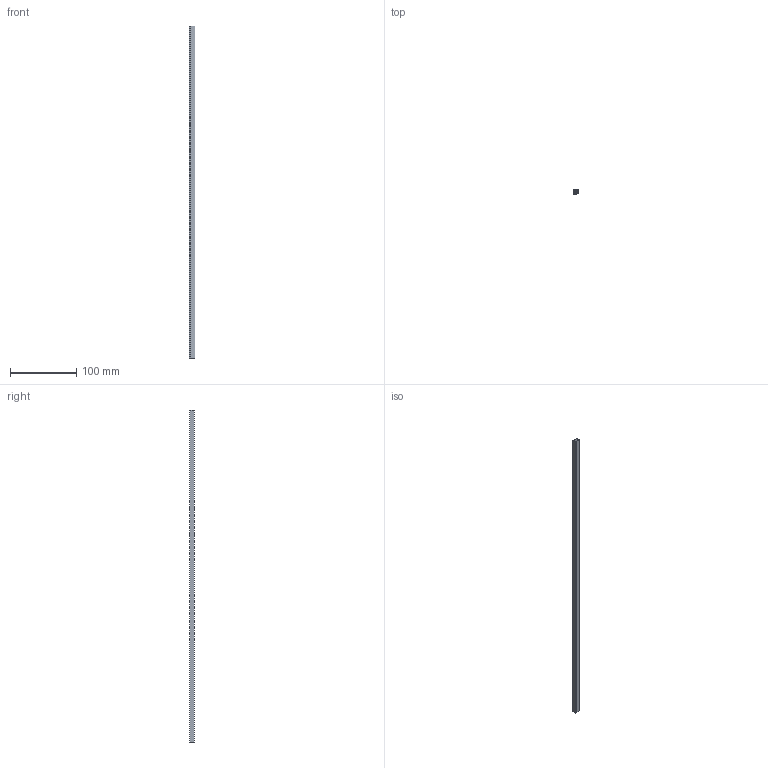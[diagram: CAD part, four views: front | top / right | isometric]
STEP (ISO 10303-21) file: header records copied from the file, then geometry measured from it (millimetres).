
FILE_DESCRIPTION (( 'STEP AP214' ), '1' );
FILE_NAME ('F2PG.STEP', '2011-05-09T06:09:54', ( '.' ), ( '' ), 'SwSTEP 2.0', 'SolidWorks 2010', '' );
FILE_SCHEMA (( 'AUTOMOTIVE_DESIGN' ));
Length unit declared in the file: millimetre
Products named in the file (1): F2PG
Bounding box: 9 x 6.35 x 500 mm (x, y, z)
Volume: 17122.2 mm3; surface area: 21610.7 mm2
Topology: 1 solids, 1 shells, 11 faces, 27 edges, 18 vertices
Faces by surface type: plane 11
Entity records: 355 total; most frequent: CARTESIAN_POINT 57, ORIENTED_EDGE 54, DIRECTION 51, EDGE_CURVE 27, VECTOR 27, LINE 27, VERTEX_POINT 18, AXIS2_PLACEMENT_3D 12
